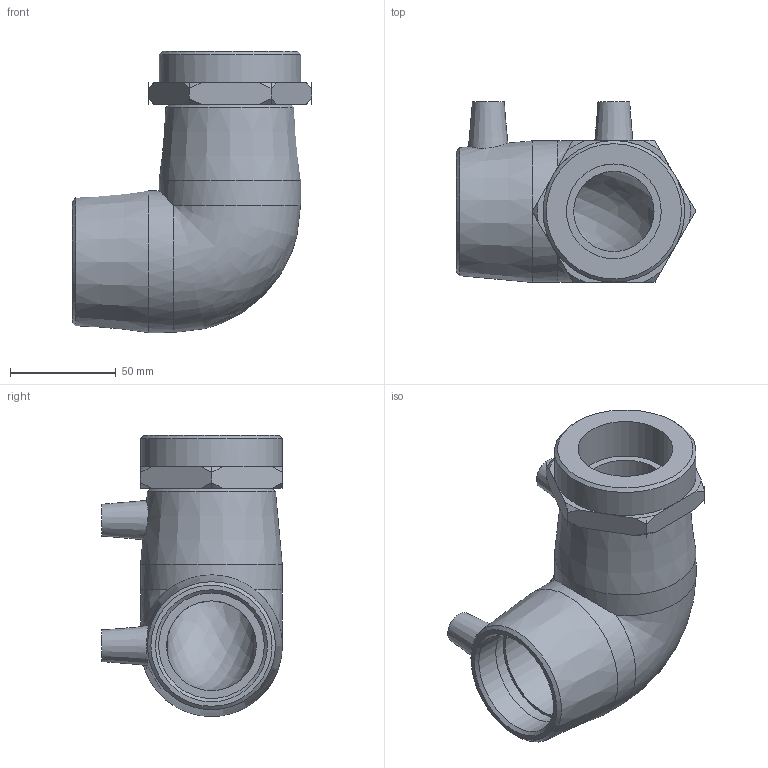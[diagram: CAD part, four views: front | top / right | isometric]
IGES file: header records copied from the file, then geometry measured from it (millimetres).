
Global section: file name: 493504050015.ipt; native system: Autodesk Inventor 2015; preprocessor: unknown; author: KIM; date: 20200202.123501; units: millimetre
Bounding box: 113.18 x 85.59 x 133 mm (x, y, z)
Volume: 315367.3 mm3; surface area: 68228.5 mm2
Topology: 2 solids, 2 shells, 76 faces, 215 edges, 150 vertices
Faces by surface type: plane 27, revolution 22, cone 19, cylinder 7, bspline 1
Full cylindrical faces by diameter (mm): 4 x2, 50 x2, 67 x3
